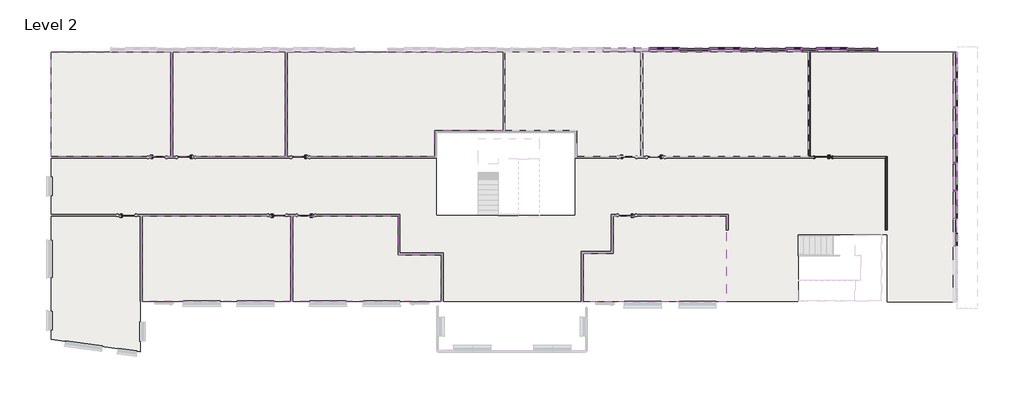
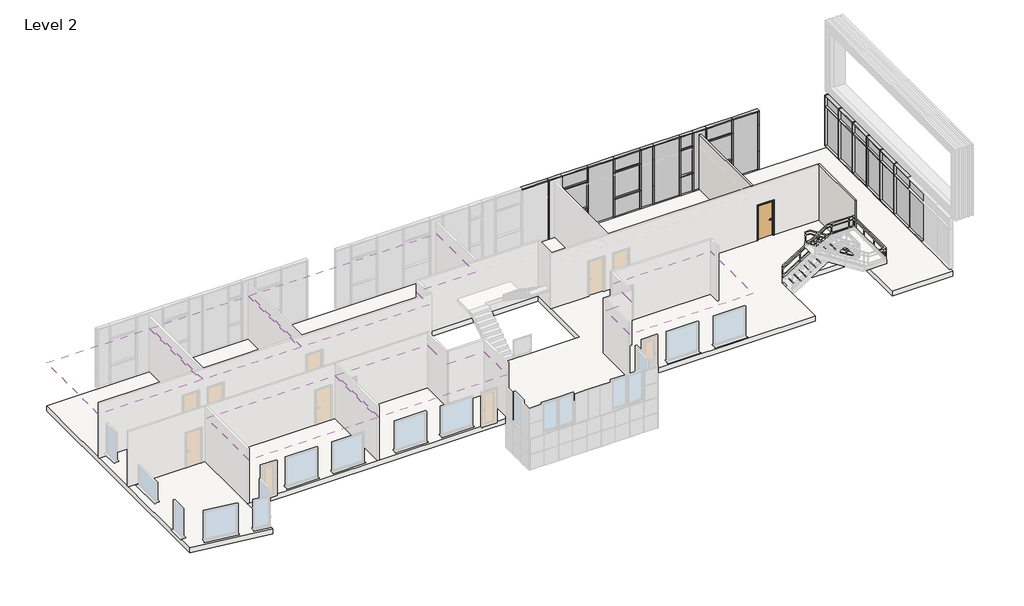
# One storey, part 4 of 7: 80 members, 31 plates, 6 coverings, 2 walls, 1 door, 1 slab.
"""IFC4 building model written with IfcOpenShell, lengths in millimetres."""

from ifc_helpers import new_model, si_unit, frame, origin, place, context, project, spatial, polyline, outline, extrude, faceted_brep, transform, mapped, element, save
from components import doors_intsgl_1_910x2110mm_ba118736, rectangular_mullion_50x180mm_27940352, rectangular_mullion_50x180mm_f781141c, rectangular_mullion_50x180mm_fd91253e, rectangular_mullion_50x180mm_cfc9efda, rectangular_mullion_50x180mm_c30fec06, rectangular_mullion_50x180mm_55b63a96, rectangular_mullion_50x180mm_95299f7d, rectangular_mullion_50x180mm_7153291d, rectangular_mullion_50x180mm_cd79a6a2, rectangular_mullion_50x180mm_b21090a6, rectangular_mullion_50x180mm_bfae1b57, rectangular_mullion_50x180mm_1c28dd9e, rectangular_mullion_50x180mm_827d9562, rectangular_mullion_50x180mm_f9fd6882, rectangular_mullion_50x180mm_28a9348e, rectangular_mullion_50x180mm_57499758, rectangular_mullion_50x180mm_dd4c0430, rectangular_mullion_50x180mm_f827d780, rectangular_mullion_50x180mm_34097c7e, rectangular_mullion_50x180mm_18b0a1cf, rectangular_mullion_50x180mm_3165a896, system_panel_black_panel_b553a8d2, system_panel_dark_grey_panel_97f951a3, system_panel_dark_grey_panel_4b19a003, system_panel_glazed_dd63f223, system_panel_glazed_4915e1a0, system_panel_glazed_a348b684, system_panel_glazed_a3270abd, system_panel_glazed_39b2f593, system_panel_glazed_c582eb4d, system_panel_glazed_b5799559, system_panel_glazed_824c4d82, system_panel_glazed_a66d18e1, system_panel_glazed_1be526e0, system_panel_white_panel_6a64f577, system_panel_white_panel_a9ca731a, system_panel_white_panel_dc489aa2, system_panel_white_panel_659cbcf8

model = new_model("IFC4")

# Units and contexts
model_context = context("Model", 3, world=origin())
ifc_project = project(units=[si_unit("LENGTHUNIT", "METRE", prefix="MILLI")], contexts=[model_context])

# Site, building, storey
site = spatial("IfcSite", under=ifc_project)
building = spatial("IfcBuilding", under=site)
storey = spatial("IfcBuildingStorey", under=building, Name="Level 2", Elevation=7450.0)

# Coverings
placement = place(None, origin())
element("IfcCovering", 1, ObjectType="600x600mm_Grid", at=placement, inside=storey, context=model_context, shape_type="SweptSolid", body=[
    extrude(outline(polyline([(-1429.2223222, 3884.8025486), (-1429.2223222, 9007.4946591), (4433.2942367, 9007.4946591), (4433.2942367, 3884.8025486), (-1429.2223222, 3884.8025486)])), frame((0.0, 0.0, 10050.0), z_axis=(0.0, 0.0, 1.0), x_axis=(1.0, 0.0, 0.0)), (0.0, 0.0, 1.0), 52.0),
])
element("IfcCovering", 2, ObjectType="600x600mm_Grid", at=placement, inside=storey, context=model_context, shape_type="SweptSolid", body=[
    extrude(outline(polyline([(4528.2942367, 9007.4946591), (10058.2942367, 9007.4946591), (10058.2942367, 3884.8025486), (4528.2942367, 3884.8025486), (4528.2942367, 9007.4946591)])), frame((0.0, 0.0, 10050.0), z_axis=(0.0, 0.0, 1.0), x_axis=(1.0, 0.0, 0.0)), (0.0, 0.0, 1.0), 52.0),
])
element("IfcCovering", 3, ObjectType="600x600mm_Grid", at=placement, inside=storey, context=model_context, shape_type="SweptSolid", body=[
    extrude(outline(polyline([(10153.2942367, 9007.4946591), (20770.7942367, 9007.4946591), (20770.7942367, 5143.5025486), (17410.7942367, 5143.5025486), (17410.7942367, 3884.8025486), (10153.2942367, 3884.8025486), (10153.2942367, 9007.4946591)])), frame((0.0, 0.0, 10050.0), z_axis=(0.0, 0.0, 1.0), x_axis=(1.0, 0.0, 0.0)), (0.0, 0.0, 1.0), 52.0),
])
element("IfcCovering", 4, ObjectType="600x600mm_Grid", at=placement, inside=storey, context=model_context, shape_type="SweptSolid", body=[
    extrude(outline(polyline([(31736.4942371, 149.3025492), (31736.4942371, -3285.0053409), (24710.7942367, -3285.0053409), (24710.7942367, -895.6472731), (26193.2942367, -895.6472731), (26193.2942367, 939.9946591), (31736.4942371, 939.9946591), (31736.4942371, 149.3025492)])), frame((0.0, 0.0, 10050.0), z_axis=(0.0, 0.0, 1.0), x_axis=(1.0, 0.0, 0.0)), (0.0, 0.0, 1.0), 52.0),
])
element("IfcCovering", 5, ObjectType="600x600mm_Grid", at=placement, inside=storey, context=model_context, shape_type="SweptSolid", body=[
    extrude(outline(polyline([(17735.7942367, -3259.5053409), (10430.7942367, -3259.5053409), (10430.7942367, 939.9946591), (15610.7942367, 939.9946591), (15610.7942367, -955.0053409), (17735.7942367, -955.0053409), (17735.7942367, -3259.5053409)])), frame((0.0, 0.0, 10050.0), z_axis=(0.0, 0.0, 1.0), x_axis=(1.0, 0.0, 0.0)), (0.0, 0.0, 1.0), 52.0),
])
element("IfcCovering", 6, ObjectType="600x600mm_Grid", at=placement, inside=storey, context=model_context, shape_type="SweptSolid", body=[
    extrude(outline(polyline([(10335.7942367, 939.9946591), (10335.7942367, -3259.5053409), (3030.7942367, -3259.5053409), (3030.7942367, 939.9946591), (10335.7942367, 939.9946591)])), frame((0.0, 0.0, 10050.0), z_axis=(0.0, 0.0, 1.0), x_axis=(1.0, 0.0, 0.0)), (0.0, 0.0, 1.0), 52.0),
])

# Door
doors_intsgl_1_910x2110mm_shape = doors_intsgl_1_910x2110mm_ba118736(model_context)
element("IfcDoor", 7, ObjectType="Doors_IntSgl_1 : 910x2110mm", at=placement, inside=storey, context=model_context, shape_type="MappedRepresentation", body=[
    mapped(doors_intsgl_1_910x2110mm_shape, transform((36520.7942367, 3837.3025486, 7450.0), x_axis=(-1.0, 0.0, 0.0), y_axis=(0.0, -1.0, 0.0), z_axis=(0.0, 0.0, 1.0))),
])

# Members
rectangular_mullion_50x180mm_shape = rectangular_mullion_50x180mm_27940352(model_context)
element("IfcMember", 8, ObjectType="Rectangular Mullion : 50x180mm", at=placement, inside=storey, context=model_context, shape_type="MappedRepresentation", body=[
    mapped(rectangular_mullion_50x180mm_shape, transform((37693.2942367, 9132.4946591, 7450.0), x_axis=(1.0, 0.0, 0.0), y_axis=(0.0, -1.0, 0.0), z_axis=(0.0, 0.0, -1.0))),
])
element("IfcMember", 9, ObjectType="Rectangular Mullion : 50x180mm", at=placement, inside=storey, context=model_context, shape_type="MappedRepresentation", body=[
    mapped(rectangular_mullion_50x180mm_shape, transform((36193.2942367, 9132.4946591, 7450.0), x_axis=(1.0, 0.0, 0.0), y_axis=(0.0, -1.0, 0.0), z_axis=(0.0, 0.0, -1.0))),
])
element("IfcMember", 10, ObjectType="Rectangular Mullion : 50x180mm", at=placement, inside=storey, context=model_context, shape_type="MappedRepresentation", body=[
    mapped(rectangular_mullion_50x180mm_shape, transform((35443.2942367, 9132.4946591, 7450.0), x_axis=(1.0, 0.0, 0.0), y_axis=(0.0, -1.0, 0.0), z_axis=(0.0, 0.0, -1.0))),
])
element("IfcMember", 11, ObjectType="Rectangular Mullion : 50x180mm", at=placement, inside=storey, context=model_context, shape_type="MappedRepresentation", body=[
    mapped(rectangular_mullion_50x180mm_shape, transform((34693.2942367, 9132.4946591, 7450.0), x_axis=(1.0, 0.0, 0.0), y_axis=(0.0, -1.0, 0.0), z_axis=(0.0, 0.0, -1.0))),
])
element("IfcMember", 12, ObjectType="Rectangular Mullion : 50x180mm", at=placement, inside=storey, context=model_context, shape_type="MappedRepresentation", body=[
    mapped(rectangular_mullion_50x180mm_shape, transform((32443.2942367, 9132.4946591, 7450.0), x_axis=(1.0, 0.0, 0.0), y_axis=(0.0, -1.0, 0.0), z_axis=(0.0, 0.0, -1.0))),
])
element("IfcMember", 13, ObjectType="Rectangular Mullion : 50x180mm", at=placement, inside=storey, context=model_context, shape_type="MappedRepresentation", body=[
    mapped(rectangular_mullion_50x180mm_shape, transform((30943.2942367, 9132.4946591, 7450.0), x_axis=(1.0, 0.0, 0.0), y_axis=(0.0, -1.0, 0.0), z_axis=(0.0, 0.0, -1.0))),
])
element("IfcMember", 14, ObjectType="Rectangular Mullion : 50x180mm", at=placement, inside=storey, context=model_context, shape_type="MappedRepresentation", body=[
    mapped(rectangular_mullion_50x180mm_shape, transform((29443.2942367, 9132.4946591, 7450.0), x_axis=(1.0, 0.0, 0.0), y_axis=(0.0, -1.0, 0.0), z_axis=(0.0, 0.0, -1.0))),
])
element("IfcMember", 15, ObjectType="Rectangular Mullion : 50x180mm", at=placement, inside=storey, context=model_context, shape_type="MappedRepresentation", body=[
    mapped(rectangular_mullion_50x180mm_shape, transform((33193.2942367, 9132.4946591, 7450.0), x_axis=(1.0, 0.0, 0.0), y_axis=(0.0, -1.0, 0.0), z_axis=(0.0, 0.0, -1.0))),
])
rectangular_mullion_50x180mm_2_shape = rectangular_mullion_50x180mm_f781141c(model_context)
element("IfcMember", 16, ObjectType="Rectangular Mullion : 50x180mm", at=placement, inside=storey, context=model_context, shape_type="MappedRepresentation", body=[
    mapped(rectangular_mullion_50x180mm_2_shape, transform((29443.2942367, 9132.4946591, 8550.0), x_axis=(1.0, 0.0, 0.0), y_axis=(0.0, -1.0, 0.0), z_axis=(0.0, 0.0, -1.0))),
])
element("IfcMember", 17, ObjectType="Rectangular Mullion : 50x180mm", at=placement, inside=storey, context=model_context, shape_type="MappedRepresentation", body=[
    mapped(rectangular_mullion_50x180mm_2_shape, transform((30943.2942367, 9132.4946591, 8550.0), x_axis=(1.0, 0.0, 0.0), y_axis=(0.0, -1.0, 0.0), z_axis=(0.0, 0.0, -1.0))),
])
element("IfcMember", 18, ObjectType="Rectangular Mullion : 50x180mm", at=placement, inside=storey, context=model_context, shape_type="MappedRepresentation", body=[
    mapped(rectangular_mullion_50x180mm_2_shape, transform((32443.2942367, 9132.4946591, 8550.0), x_axis=(1.0, 0.0, 0.0), y_axis=(0.0, -1.0, 0.0), z_axis=(0.0, 0.0, -1.0))),
])
element("IfcMember", 19, ObjectType="Rectangular Mullion : 50x180mm", at=placement, inside=storey, context=model_context, shape_type="MappedRepresentation", body=[
    mapped(rectangular_mullion_50x180mm_2_shape, transform((34693.2942367, 9132.4946591, 8550.0), x_axis=(1.0, 0.0, 0.0), y_axis=(0.0, -1.0, 0.0), z_axis=(0.0, 0.0, -1.0))),
])
element("IfcMember", 20, ObjectType="Rectangular Mullion : 50x180mm", at=placement, inside=storey, context=model_context, shape_type="MappedRepresentation", body=[
    mapped(rectangular_mullion_50x180mm_2_shape, transform((35443.2942367, 9132.4946591, 8550.0), x_axis=(1.0, 0.0, 0.0), y_axis=(0.0, -1.0, 0.0), z_axis=(0.0, 0.0, -1.0))),
])
element("IfcMember", 21, ObjectType="Rectangular Mullion : 50x180mm", at=placement, inside=storey, context=model_context, shape_type="MappedRepresentation", body=[
    mapped(rectangular_mullion_50x180mm_2_shape, transform((36193.2942367, 9132.4946591, 8550.0), x_axis=(1.0, 0.0, 0.0), y_axis=(0.0, -1.0, 0.0), z_axis=(0.0, 0.0, -1.0))),
])
element("IfcMember", 22, ObjectType="Rectangular Mullion : 50x180mm", at=placement, inside=storey, context=model_context, shape_type="MappedRepresentation", body=[
    mapped(rectangular_mullion_50x180mm_2_shape, transform((37693.2942367, 9132.4946591, 8550.0), x_axis=(1.0, 0.0, 0.0), y_axis=(0.0, -1.0, 0.0), z_axis=(0.0, 0.0, -1.0))),
])
element("IfcMember", 23, ObjectType="Rectangular Mullion : 50x180mm", at=placement, inside=storey, context=model_context, shape_type="MappedRepresentation", body=[
    mapped(rectangular_mullion_50x180mm_2_shape, transform((33193.2942367, 9132.4946591, 8550.0), x_axis=(1.0, 0.0, 0.0), y_axis=(0.0, -1.0, 0.0), z_axis=(0.0, 0.0, -1.0))),
])
rectangular_mullion_50x180mm_3_shape = rectangular_mullion_50x180mm_fd91253e(model_context)
element("IfcMember", 24, ObjectType="Rectangular Mullion : 50x180mm", at=placement, inside=storey, context=model_context, shape_type="MappedRepresentation", body=[
    mapped(rectangular_mullion_50x180mm_3_shape, transform((37668.2942367, 9132.4946591, 8550.0), x_axis=(0.0, 0.0, 1.0), y_axis=(0.0, -1.0, 0.0), z_axis=(1.0, 0.0, 0.0))),
])
element("IfcMember", 25, ObjectType="Rectangular Mullion : 50x180mm", at=placement, inside=storey, context=model_context, shape_type="MappedRepresentation", body=[
    mapped(rectangular_mullion_50x180mm_3_shape, transform((37668.2942367, 9132.4946591, 10150.0), x_axis=(0.0, 0.0, 1.0), y_axis=(0.0, -1.0, 0.0), z_axis=(1.0, 0.0, 0.0))),
])
element("IfcMember", 26, ObjectType="Rectangular Mullion : 50x180mm", at=placement, inside=storey, context=model_context, shape_type="MappedRepresentation", body=[
    mapped(rectangular_mullion_50x180mm_3_shape, transform((29418.2942367, 9132.4946591, 8550.0), x_axis=(0.0, 0.0, 1.0), y_axis=(0.0, -1.0, 0.0), z_axis=(1.0, 0.0, 0.0))),
])
element("IfcMember", 27, ObjectType="Rectangular Mullion : 50x180mm", at=placement, inside=storey, context=model_context, shape_type="MappedRepresentation", body=[
    mapped(rectangular_mullion_50x180mm_3_shape, transform((32418.2942367, 9132.4946591, 8550.0), x_axis=(0.0, 0.0, 1.0), y_axis=(0.0, -1.0, 0.0), z_axis=(1.0, 0.0, 0.0))),
])
element("IfcMember", 28, ObjectType="Rectangular Mullion : 50x180mm", at=placement, inside=storey, context=model_context, shape_type="MappedRepresentation", body=[
    mapped(rectangular_mullion_50x180mm_3_shape, transform((29418.2942367, 9132.4946591, 10150.0), x_axis=(0.0, 0.0, 1.0), y_axis=(0.0, -1.0, 0.0), z_axis=(1.0, 0.0, 0.0))),
])
element("IfcMember", 29, ObjectType="Rectangular Mullion : 50x180mm", at=placement, inside=storey, context=model_context, shape_type="MappedRepresentation", body=[
    mapped(rectangular_mullion_50x180mm_3_shape, transform((32418.2942367, 9132.4946591, 10150.0), x_axis=(0.0, 0.0, 1.0), y_axis=(0.0, -1.0, 0.0), z_axis=(1.0, 0.0, 0.0))),
])
rectangular_mullion_50x180mm_4_shape = rectangular_mullion_50x180mm_cfc9efda(model_context)
element("IfcMember", 30, ObjectType="Rectangular Mullion : 50x180mm", at=placement, inside=storey, context=model_context, shape_type="MappedRepresentation", body=[
    mapped(rectangular_mullion_50x180mm_4_shape, transform((35418.2942367, 9132.4946591, 10150.0), x_axis=(0.0, 0.0, 1.0), y_axis=(0.0, -1.0, 0.0), z_axis=(1.0, 0.0, 0.0))),
])
element("IfcMember", 31, ObjectType="Rectangular Mullion : 50x180mm", at=placement, inside=storey, context=model_context, shape_type="MappedRepresentation", body=[
    mapped(rectangular_mullion_50x180mm_4_shape, transform((35418.2942367, 9132.4946591, 8550.0), x_axis=(0.0, 0.0, 1.0), y_axis=(0.0, -1.0, 0.0), z_axis=(1.0, 0.0, 0.0))),
])
rectangular_mullion_50x180mm_5_shape = rectangular_mullion_50x180mm_c30fec06(model_context)
element("IfcMember", 32, ObjectType="Rectangular Mullion : 50x180mm", at=placement, inside=storey, context=model_context, shape_type="MappedRepresentation", body=[
    mapped(rectangular_mullion_50x180mm_5_shape, transform((29443.2942367, 9132.4946591, 11000.0), x_axis=(0.0, 0.0, 1.0), y_axis=(0.0, -1.0, 0.0), z_axis=(1.0, 0.0, 0.0))),
])
element("IfcMember", 33, ObjectType="Rectangular Mullion : 50x180mm", at=placement, inside=storey, context=model_context, shape_type="MappedRepresentation", body=[
    mapped(rectangular_mullion_50x180mm_5_shape, transform((30943.2942367, 9132.4946591, 11000.0), x_axis=(0.0, 0.0, 1.0), y_axis=(0.0, -1.0, 0.0), z_axis=(1.0, 0.0, 0.0))),
])
element("IfcMember", 34, ObjectType="Rectangular Mullion : 50x180mm", at=placement, inside=storey, context=model_context, shape_type="MappedRepresentation", body=[
    mapped(rectangular_mullion_50x180mm_5_shape, transform((32443.2942367, 9132.4946591, 11000.0), x_axis=(0.0, 0.0, 1.0), y_axis=(0.0, -1.0, 0.0), z_axis=(1.0, 0.0, 0.0))),
])
element("IfcMember", 35, ObjectType="Rectangular Mullion : 50x180mm", at=placement, inside=storey, context=model_context, shape_type="MappedRepresentation", body=[
    mapped(rectangular_mullion_50x180mm_5_shape, transform((34693.2942367, 9132.4946591, 11000.0), x_axis=(0.0, 0.0, 1.0), y_axis=(0.0, -1.0, 0.0), z_axis=(1.0, 0.0, 0.0))),
])
element("IfcMember", 36, ObjectType="Rectangular Mullion : 50x180mm", at=placement, inside=storey, context=model_context, shape_type="MappedRepresentation", body=[
    mapped(rectangular_mullion_50x180mm_5_shape, transform((37693.2942367, 9132.4946591, 11000.0), x_axis=(0.0, 0.0, 1.0), y_axis=(0.0, -1.0, 0.0), z_axis=(1.0, 0.0, 0.0))),
])
rectangular_mullion_50x180mm_6_shape = rectangular_mullion_50x180mm_55b63a96(model_context)
element("IfcMember", 37, ObjectType="Rectangular Mullion : 50x180mm", at=placement, inside=storey, context=model_context, shape_type="MappedRepresentation", body=[
    mapped(rectangular_mullion_50x180mm_6_shape, transform((27943.2942367, 9132.4946591, 11000.0), x_axis=(0.0, 0.0, 1.0), y_axis=(0.0, -1.0, 0.0), z_axis=(1.0, 0.0, 0.0))),
])
element("IfcMember", 38, ObjectType="Rectangular Mullion : 50x180mm", at=placement, inside=storey, context=model_context, shape_type="MappedRepresentation", body=[
    mapped(rectangular_mullion_50x180mm_5_shape, transform((27193.2942367, 9132.4946591, 11000.0), x_axis=(0.0, 0.0, 1.0), y_axis=(0.0, -1.0, 0.0), z_axis=(1.0, 0.0, 0.0))),
])
element("IfcMember", 39, ObjectType="Rectangular Mullion : 50x180mm", at=placement, inside=storey, context=model_context, shape_type="MappedRepresentation", body=[
    mapped(rectangular_mullion_50x180mm_6_shape, transform((33193.2942367, 9132.4946591, 11000.0), x_axis=(0.0, 0.0, 1.0), y_axis=(0.0, -1.0, 0.0), z_axis=(1.0, 0.0, 0.0))),
])
element("IfcMember", 40, ObjectType="Rectangular Mullion : 50x180mm", at=placement, inside=storey, context=model_context, shape_type="MappedRepresentation", body=[
    mapped(rectangular_mullion_50x180mm_6_shape, transform((35443.2942367, 9132.4946591, 11000.0), x_axis=(0.0, 0.0, 1.0), y_axis=(0.0, -1.0, 0.0), z_axis=(1.0, 0.0, 0.0))),
])
element("IfcMember", 41, ObjectType="Rectangular Mullion : 50x180mm", at=placement, inside=storey, context=model_context, shape_type="MappedRepresentation", body=[
    mapped(rectangular_mullion_50x180mm_6_shape, transform((36193.2942367, 9132.4946591, 11000.0), x_axis=(0.0, 0.0, 1.0), y_axis=(0.0, -1.0, 0.0), z_axis=(1.0, 0.0, 0.0))),
])
element("IfcMember", 42, ObjectType="Rectangular Mullion : 50x180mm", at=placement, inside=storey, context=model_context, shape_type="MappedRepresentation", body=[
    mapped(rectangular_mullion_50x180mm_5_shape, transform((39193.2942367, 9132.4946591, 11000.0), x_axis=(0.0, 0.0, 1.0), y_axis=(0.0, -1.0, 0.0), z_axis=(1.0, 0.0, 0.0))),
])
rectangular_mullion_50x180mm_7_shape = rectangular_mullion_50x180mm_95299f7d(model_context)
element("IfcMember", 43, ObjectType="Rectangular Mullion : 50x180mm", at=placement, inside=storey, context=model_context, shape_type="MappedRepresentation", body=[
    mapped(rectangular_mullion_50x180mm_7_shape, transform((39193.2942367, 9132.4946591, 8550.0), x_axis=(1.0, 0.0, 0.0), y_axis=(0.0, -1.0, 0.0), z_axis=(0.0, 0.0, -1.0))),
])
rectangular_mullion_50x180mm_8_shape = rectangular_mullion_50x180mm_7153291d(model_context)
element("IfcMember", 44, ObjectType="Rectangular Mullion : 50x180mm", at=placement, inside=storey, context=model_context, shape_type="MappedRepresentation", body=[
    mapped(rectangular_mullion_50x180mm_8_shape, transform((39193.2942367, 9132.4946591, 7450.0), x_axis=(1.0, 0.0, 0.0), y_axis=(0.0, -1.0, 0.0), z_axis=(0.0, 0.0, -1.0))),
])
element("IfcMember", 45, ObjectType="Rectangular Mullion : 50x180mm", at=placement, inside=storey, context=model_context, shape_type="MappedRepresentation", body=[
    mapped(rectangular_mullion_50x180mm_8_shape, transform((27193.2942367, 9132.4946591, 8550.0), x_axis=(-1.0, 0.0, 0.0), y_axis=(0.0, -1.0, 0.0), z_axis=(0.0, 0.0, 1.0))),
])
element("IfcMember", 46, ObjectType="Rectangular Mullion : 50x180mm", at=placement, inside=storey, context=model_context, shape_type="MappedRepresentation", body=[
    mapped(rectangular_mullion_50x180mm_7_shape, transform((27193.2942367, 9132.4946591, 10150.0), x_axis=(-1.0, 0.0, 0.0), y_axis=(0.0, -1.0, 0.0), z_axis=(0.0, 0.0, 1.0))),
])
rectangular_mullion_50x180mm_9_shape = rectangular_mullion_50x180mm_cd79a6a2(model_context)
element("IfcMember", 47, ObjectType="Rectangular Mullion : 50x180mm", at=placement, inside=storey, context=model_context, shape_type="MappedRepresentation", body=[
    mapped(rectangular_mullion_50x180mm_9_shape, transform((43003.2942367, 7641.6613256, 7600.0), x_axis=(0.0, -1.0, 0.0), y_axis=(-1.0, 0.0, 0.0), z_axis=(0.0, 0.0, -1.0))),
])
element("IfcMember", 48, ObjectType="Rectangular Mullion : 50x180mm", at=placement, inside=storey, context=model_context, shape_type="MappedRepresentation", body=[
    mapped(rectangular_mullion_50x180mm_9_shape, transform((43003.2942367, 6275.8279923, 7600.0), x_axis=(0.0, -1.0, 0.0), y_axis=(-1.0, 0.0, 0.0), z_axis=(0.0, 0.0, -1.0))),
])
element("IfcMember", 49, ObjectType="Rectangular Mullion : 50x180mm", at=placement, inside=storey, context=model_context, shape_type="MappedRepresentation", body=[
    mapped(rectangular_mullion_50x180mm_9_shape, transform((43003.2942367, 4909.994659, 7600.0), x_axis=(0.0, -1.0, 0.0), y_axis=(-1.0, 0.0, 0.0), z_axis=(0.0, 0.0, -1.0))),
])
element("IfcMember", 50, ObjectType="Rectangular Mullion : 50x180mm", at=placement, inside=storey, context=model_context, shape_type="MappedRepresentation", body=[
    mapped(rectangular_mullion_50x180mm_9_shape, transform((43003.2942367, 3544.1613258, 7600.0), x_axis=(0.0, -1.0, 0.0), y_axis=(-1.0, 0.0, 0.0), z_axis=(0.0, 0.0, -1.0))),
])
element("IfcMember", 51, ObjectType="Rectangular Mullion : 50x180mm", at=placement, inside=storey, context=model_context, shape_type="MappedRepresentation", body=[
    mapped(rectangular_mullion_50x180mm_9_shape, transform((43003.2942367, 2178.3279925, 7600.0), x_axis=(0.0, -1.0, 0.0), y_axis=(-1.0, 0.0, 0.0), z_axis=(0.0, 0.0, -1.0))),
])
rectangular_mullion_50x180mm_10_shape = rectangular_mullion_50x180mm_b21090a6(model_context)
element("IfcMember", 52, ObjectType="Rectangular Mullion : 50x180mm", at=placement, inside=storey, context=model_context, shape_type="MappedRepresentation", body=[
    mapped(rectangular_mullion_50x180mm_10_shape, transform((43003.2942367, 9007.4946591, 10000.0), x_axis=(0.0, 1.0, 0.0), y_axis=(-1.0, 0.0, 0.0), z_axis=(0.0, 0.0, 1.0))),
])
rectangular_mullion_50x180mm_11_shape = rectangular_mullion_50x180mm_bfae1b57(model_context)
element("IfcMember", 53, ObjectType="Rectangular Mullion : 50x180mm", at=placement, inside=storey, context=model_context, shape_type="MappedRepresentation", body=[
    mapped(rectangular_mullion_50x180mm_11_shape, transform((34693.2942367, 9132.4946591, 10150.0), x_axis=(1.0, 0.0, 0.0), y_axis=(0.0, -1.0, 0.0), z_axis=(0.0, 0.0, -1.0))),
])
element("IfcMember", 54, ObjectType="Rectangular Mullion : 50x180mm", at=placement, inside=storey, context=model_context, shape_type="MappedRepresentation", body=[
    mapped(rectangular_mullion_50x180mm_11_shape, transform((35443.2942367, 9132.4946591, 10150.0), x_axis=(1.0, 0.0, 0.0), y_axis=(0.0, -1.0, 0.0), z_axis=(0.0, 0.0, -1.0))),
])
element("IfcMember", 55, ObjectType="Rectangular Mullion : 50x180mm", at=placement, inside=storey, context=model_context, shape_type="MappedRepresentation", body=[
    mapped(rectangular_mullion_50x180mm_11_shape, transform((36193.2942367, 9132.4946591, 10150.0), x_axis=(1.0, 0.0, 0.0), y_axis=(0.0, -1.0, 0.0), z_axis=(0.0, 0.0, -1.0))),
])
element("IfcMember", 56, ObjectType="Rectangular Mullion : 50x180mm", at=placement, inside=storey, context=model_context, shape_type="MappedRepresentation", body=[
    mapped(rectangular_mullion_50x180mm_11_shape, transform((37693.2942367, 9132.4946591, 10150.0), x_axis=(1.0, 0.0, 0.0), y_axis=(0.0, -1.0, 0.0), z_axis=(0.0, 0.0, -1.0))),
])
element("IfcMember", 57, ObjectType="Rectangular Mullion : 50x180mm", at=placement, inside=storey, context=model_context, shape_type="MappedRepresentation", body=[
    mapped(rectangular_mullion_50x180mm_11_shape, transform((32443.2942367, 9132.4946591, 10150.0), x_axis=(1.0, 0.0, 0.0), y_axis=(0.0, -1.0, 0.0), z_axis=(0.0, 0.0, -1.0))),
])
element("IfcMember", 58, ObjectType="Rectangular Mullion : 50x180mm", at=placement, inside=storey, context=model_context, shape_type="MappedRepresentation", body=[
    mapped(rectangular_mullion_50x180mm_11_shape, transform((30943.2942367, 9132.4946591, 10150.0), x_axis=(1.0, 0.0, 0.0), y_axis=(0.0, -1.0, 0.0), z_axis=(0.0, 0.0, -1.0))),
])
element("IfcMember", 59, ObjectType="Rectangular Mullion : 50x180mm", at=placement, inside=storey, context=model_context, shape_type="MappedRepresentation", body=[
    mapped(rectangular_mullion_50x180mm_11_shape, transform((29443.2942367, 9132.4946591, 10150.0), x_axis=(1.0, 0.0, 0.0), y_axis=(0.0, -1.0, 0.0), z_axis=(0.0, 0.0, -1.0))),
])
element("IfcMember", 60, ObjectType="Rectangular Mullion : 50x180mm", at=placement, inside=storey, context=model_context, shape_type="MappedRepresentation", body=[
    mapped(rectangular_mullion_50x180mm_11_shape, transform((33193.2942367, 9132.4946591, 10150.0), x_axis=(1.0, 0.0, 0.0), y_axis=(0.0, -1.0, 0.0), z_axis=(0.0, 0.0, -1.0))),
])
rectangular_mullion_50x180mm_12_shape = rectangular_mullion_50x180mm_1c28dd9e(model_context)
element("IfcMember", 61, ObjectType="Rectangular Mullion : 50x180mm", at=placement, inside=storey, context=model_context, shape_type="MappedRepresentation", body=[
    mapped(rectangular_mullion_50x180mm_12_shape, transform((39193.2942367, 9132.4946591, 10150.0), x_axis=(1.0, 0.0, 0.0), y_axis=(0.0, -1.0, 0.0), z_axis=(0.0, 0.0, -1.0))),
])
element("IfcMember", 62, ObjectType="Rectangular Mullion : 50x180mm", at=placement, inside=storey, context=model_context, shape_type="MappedRepresentation", body=[
    mapped(rectangular_mullion_50x180mm_12_shape, transform((27193.2942367, 9132.4946591, 10950.0), x_axis=(-1.0, 0.0, 0.0), y_axis=(0.0, -1.0, 0.0), z_axis=(0.0, 0.0, 1.0))),
])
rectangular_mullion_50x180mm_13_shape = rectangular_mullion_50x180mm_827d9562(model_context)
element("IfcMember", 63, ObjectType="Rectangular Mullion : 50x180mm", at=placement, inside=storey, context=model_context, shape_type="MappedRepresentation", body=[
    mapped(rectangular_mullion_50x180mm_13_shape, transform((43003.2942367, 7641.6613256, 10000.0), x_axis=(0.0, -1.0, 0.0), y_axis=(-1.0, 0.0, 0.0), z_axis=(0.0, 0.0, -1.0))),
])
element("IfcMember", 64, ObjectType="Rectangular Mullion : 50x180mm", at=placement, inside=storey, context=model_context, shape_type="MappedRepresentation", body=[
    mapped(rectangular_mullion_50x180mm_13_shape, transform((43003.2942367, 6275.8279923, 10000.0), x_axis=(0.0, -1.0, 0.0), y_axis=(-1.0, 0.0, 0.0), z_axis=(0.0, 0.0, -1.0))),
])
element("IfcMember", 65, ObjectType="Rectangular Mullion : 50x180mm", at=placement, inside=storey, context=model_context, shape_type="MappedRepresentation", body=[
    mapped(rectangular_mullion_50x180mm_13_shape, transform((43003.2942367, 4909.994659, 10000.0), x_axis=(0.0, -1.0, 0.0), y_axis=(-1.0, 0.0, 0.0), z_axis=(0.0, 0.0, -1.0))),
])
element("IfcMember", 66, ObjectType="Rectangular Mullion : 50x180mm", at=placement, inside=storey, context=model_context, shape_type="MappedRepresentation", body=[
    mapped(rectangular_mullion_50x180mm_13_shape, transform((43003.2942367, 3544.1613258, 10000.0), x_axis=(0.0, -1.0, 0.0), y_axis=(-1.0, 0.0, 0.0), z_axis=(0.0, 0.0, -1.0))),
])
element("IfcMember", 67, ObjectType="Rectangular Mullion : 50x180mm", at=placement, inside=storey, context=model_context, shape_type="MappedRepresentation", body=[
    mapped(rectangular_mullion_50x180mm_13_shape, transform((43003.2942367, 2178.3279925, 10000.0), x_axis=(0.0, -1.0, 0.0), y_axis=(-1.0, 0.0, 0.0), z_axis=(0.0, 0.0, -1.0))),
])
rectangular_mullion_50x180mm_14_shape = rectangular_mullion_50x180mm_f9fd6882(model_context)
element("IfcMember", 68, ObjectType="Rectangular Mullion : 50x180mm", at=placement, inside=storey, context=model_context, shape_type="MappedRepresentation", body=[
    mapped(rectangular_mullion_50x180mm_14_shape, transform((43003.2942367, 9007.4946591, 10665.0), x_axis=(0.0, 1.0, 0.0), y_axis=(-1.0, 0.0, 0.0), z_axis=(0.0, 0.0, 1.0))),
])
rectangular_mullion_50x180mm_15_shape = rectangular_mullion_50x180mm_28a9348e(model_context)
element("IfcMember", 69, ObjectType="Rectangular Mullion : 50x180mm", at=placement, inside=storey, context=model_context, shape_type="MappedRepresentation", body=[
    mapped(rectangular_mullion_50x180mm_15_shape, transform((43003.2942367, 7666.6613256, 10665.0), x_axis=(0.0, 0.0, 1.0), y_axis=(-1.0, 0.0, 0.0), z_axis=(0.0, -1.0, 0.0))),
])
rectangular_mullion_50x180mm_16_shape = rectangular_mullion_50x180mm_57499758(model_context)
element("IfcMember", 70, ObjectType="Rectangular Mullion : 50x180mm", at=placement, inside=storey, context=model_context, shape_type="MappedRepresentation", body=[
    mapped(rectangular_mullion_50x180mm_16_shape, transform((43003.2942367, 6300.8279923, 10665.0), x_axis=(0.0, 0.0, 1.0), y_axis=(-1.0, 0.0, 0.0), z_axis=(0.0, -1.0, 0.0))),
])
element("IfcMember", 71, ObjectType="Rectangular Mullion : 50x180mm", at=placement, inside=storey, context=model_context, shape_type="MappedRepresentation", body=[
    mapped(rectangular_mullion_50x180mm_16_shape, transform((43003.2942367, 4934.994659, 10665.0), x_axis=(0.0, 0.0, 1.0), y_axis=(-1.0, 0.0, 0.0), z_axis=(0.0, -1.0, 0.0))),
])
element("IfcMember", 72, ObjectType="Rectangular Mullion : 50x180mm", at=placement, inside=storey, context=model_context, shape_type="MappedRepresentation", body=[
    mapped(rectangular_mullion_50x180mm_16_shape, transform((43003.2942367, 3569.1613258, 10665.0), x_axis=(0.0, 0.0, 1.0), y_axis=(-1.0, 0.0, 0.0), z_axis=(0.0, -1.0, 0.0))),
])
element("IfcMember", 73, ObjectType="Rectangular Mullion : 50x180mm", at=placement, inside=storey, context=model_context, shape_type="MappedRepresentation", body=[
    mapped(rectangular_mullion_50x180mm_16_shape, transform((43003.2942367, 2203.3279925, 10665.0), x_axis=(0.0, 0.0, 1.0), y_axis=(-1.0, 0.0, 0.0), z_axis=(0.0, -1.0, 0.0))),
])
element("IfcMember", 74, ObjectType="Rectangular Mullion : 50x180mm", at=placement, inside=storey, context=model_context, shape_type="MappedRepresentation", body=[
    mapped(rectangular_mullion_50x180mm_15_shape, transform((43003.2942367, 8957.4946591, 7600.0), x_axis=(0.0, 0.0, -1.0), y_axis=(-1.0, 0.0, 0.0), z_axis=(0.0, 1.0, 0.0))),
])
element("IfcMember", 75, ObjectType="Rectangular Mullion : 50x180mm", at=placement, inside=storey, context=model_context, shape_type="MappedRepresentation", body=[
    mapped(rectangular_mullion_50x180mm_16_shape, transform((43003.2942367, 7616.6613256, 7600.0), x_axis=(0.0, 0.0, -1.0), y_axis=(-1.0, 0.0, 0.0), z_axis=(0.0, 1.0, 0.0))),
])
element("IfcMember", 76, ObjectType="Rectangular Mullion : 50x180mm", at=placement, inside=storey, context=model_context, shape_type="MappedRepresentation", body=[
    mapped(rectangular_mullion_50x180mm_16_shape, transform((43003.2942367, 6250.8279923, 7600.0), x_axis=(0.0, 0.0, -1.0), y_axis=(-1.0, 0.0, 0.0), z_axis=(0.0, 1.0, 0.0))),
])
element("IfcMember", 77, ObjectType="Rectangular Mullion : 50x180mm", at=placement, inside=storey, context=model_context, shape_type="MappedRepresentation", body=[
    mapped(rectangular_mullion_50x180mm_16_shape, transform((43003.2942367, 4884.994659, 7600.0), x_axis=(0.0, 0.0, -1.0), y_axis=(-1.0, 0.0, 0.0), z_axis=(0.0, 1.0, 0.0))),
])
element("IfcMember", 78, ObjectType="Rectangular Mullion : 50x180mm", at=placement, inside=storey, context=model_context, shape_type="MappedRepresentation", body=[
    mapped(rectangular_mullion_50x180mm_16_shape, transform((43003.2942367, 3519.1613258, 7600.0), x_axis=(0.0, 0.0, -1.0), y_axis=(-1.0, 0.0, 0.0), z_axis=(0.0, 1.0, 0.0))),
])
rectangular_mullion_50x180mm_17_shape = rectangular_mullion_50x180mm_dd4c0430(model_context)
element("IfcMember", 79, ObjectType="Rectangular Mullion : 50x180mm", at=placement, inside=storey, context=model_context, shape_type="MappedRepresentation", body=[
    mapped(rectangular_mullion_50x180mm_17_shape, transform((43003.2942367, 2153.3279925, 7600.0), x_axis=(0.0, 0.0, -1.0), y_axis=(-1.0, 0.0, 0.0), z_axis=(0.0, 1.0, 0.0))),
])
rectangular_mullion_50x180mm_18_shape = rectangular_mullion_50x180mm_f827d780(model_context)
element("IfcMember", 80, ObjectType="Rectangular Mullion : 50x180mm", at=placement, inside=storey, context=model_context, shape_type="MappedRepresentation", body=[
    mapped(rectangular_mullion_50x180mm_18_shape, transform((43003.2942367, 7666.6613256, 10000.0), x_axis=(0.0, 0.0, 1.0), y_axis=(-1.0, 0.0, 0.0), z_axis=(0.0, -1.0, 0.0))),
])
rectangular_mullion_50x180mm_19_shape = rectangular_mullion_50x180mm_34097c7e(model_context)
element("IfcMember", 81, ObjectType="Rectangular Mullion : 50x180mm", at=placement, inside=storey, context=model_context, shape_type="MappedRepresentation", body=[
    mapped(rectangular_mullion_50x180mm_19_shape, transform((43003.2942367, 6300.8279923, 10000.0), x_axis=(0.0, 0.0, 1.0), y_axis=(-1.0, 0.0, 0.0), z_axis=(0.0, -1.0, 0.0))),
])
element("IfcMember", 82, ObjectType="Rectangular Mullion : 50x180mm", at=placement, inside=storey, context=model_context, shape_type="MappedRepresentation", body=[
    mapped(rectangular_mullion_50x180mm_19_shape, transform((43003.2942367, 4934.994659, 10000.0), x_axis=(0.0, 0.0, 1.0), y_axis=(-1.0, 0.0, 0.0), z_axis=(0.0, -1.0, 0.0))),
])
element("IfcMember", 83, ObjectType="Rectangular Mullion : 50x180mm", at=placement, inside=storey, context=model_context, shape_type="MappedRepresentation", body=[
    mapped(rectangular_mullion_50x180mm_19_shape, transform((43003.2942367, 3569.1613258, 10000.0), x_axis=(0.0, 0.0, 1.0), y_axis=(-1.0, 0.0, 0.0), z_axis=(0.0, -1.0, 0.0))),
])
element("IfcMember", 84, ObjectType="Rectangular Mullion : 50x180mm", at=placement, inside=storey, context=model_context, shape_type="MappedRepresentation", body=[
    mapped(rectangular_mullion_50x180mm_19_shape, transform((43003.2942367, 2203.3279925, 10000.0), x_axis=(0.0, 0.0, 1.0), y_axis=(-1.0, 0.0, 0.0), z_axis=(0.0, -1.0, 0.0))),
])
rectangular_mullion_50x180mm_20_shape = rectangular_mullion_50x180mm_18b0a1cf(model_context)
element("IfcMember", 85, ObjectType="Rectangular Mullion : 50x180mm", at=placement, inside=storey, context=model_context, shape_type="MappedRepresentation", body=[
    mapped(rectangular_mullion_50x180mm_20_shape, transform((43003.2942367, 812.4946592, 10000.0), x_axis=(0.0, 0.0, 1.0), y_axis=(-1.0, 0.0, 0.0), z_axis=(0.0, -1.0, 0.0))),
])
element("IfcMember", 86, ObjectType="Rectangular Mullion : 50x180mm", at=placement, inside=storey, context=model_context, shape_type="MappedRepresentation", body=[
    mapped(rectangular_mullion_50x180mm_17_shape, transform((43003.2942367, 812.4946592, 10665.0), x_axis=(0.0, 0.0, 1.0), y_axis=(-1.0, 0.0, 0.0), z_axis=(0.0, -1.0, 0.0))),
])
rectangular_mullion_50x180mm_21_shape = rectangular_mullion_50x180mm_3165a896(model_context)
element("IfcMember", 87, ObjectType="Rectangular Mullion : 50x180mm", at=placement, inside=storey, context=model_context, shape_type="MappedRepresentation", body=[
    mapped(rectangular_mullion_50x180mm_21_shape, transform((43003.2942367, 812.4946592, 7600.0), x_axis=(0.0, 0.0, -1.0), y_axis=(-1.0, 0.0, 0.0), z_axis=(0.0, 1.0, 0.0))),
])

# Plates
system_panel_black_panel_shape = system_panel_black_panel_b553a8d2(model_context)
element("IfcPlate", 88, ObjectType="System Panel : Black-Panel", at=placement, inside=storey, context=model_context, shape_type="MappedRepresentation", body=[
    mapped(system_panel_black_panel_shape, transform((35818.2942367, 9132.4946591, 7450.0), x_axis=(1.0, 0.0, 0.0), y_axis=(0.0, 1.0, 0.0), z_axis=(0.0, 0.0, 1.0))),
])
element("IfcPlate", 89, ObjectType="System Panel : Black-Panel", at=placement, inside=storey, context=model_context, shape_type="MappedRepresentation", body=[
    mapped(system_panel_black_panel_shape, transform((32818.2942367, 9132.4946591, 7450.0), x_axis=(1.0, 0.0, 0.0), y_axis=(0.0, 1.0, 0.0), z_axis=(0.0, 0.0, 1.0))),
])
system_panel_dark_grey_panel_shape = system_panel_dark_grey_panel_97f951a3(model_context)
element("IfcPlate", 90, ObjectType="System Panel : Dark Grey-Panel", at=placement, inside=storey, context=model_context, shape_type="MappedRepresentation", body=[
    mapped(system_panel_dark_grey_panel_shape, transform((38430.7942367, 9132.4946591, 7450.0), x_axis=(1.0, 0.0, 0.0), y_axis=(0.0, 1.0, 0.0), z_axis=(0.0, 0.0, 1.0))),
])
system_panel_dark_grey_panel_2_shape = system_panel_dark_grey_panel_4b19a003(model_context)
element("IfcPlate", 91, ObjectType="System Panel : Dark Grey-Panel", at=placement, inside=storey, context=model_context, shape_type="MappedRepresentation", body=[
    mapped(system_panel_dark_grey_panel_2_shape, transform((33943.2942367, 9132.4946591, 7450.0), x_axis=(1.0, 0.0, 0.0), y_axis=(0.0, 1.0, 0.0), z_axis=(0.0, 0.0, 1.0))),
])
element("IfcPlate", 92, ObjectType="System Panel : Dark Grey-Panel", at=placement, inside=storey, context=model_context, shape_type="MappedRepresentation", body=[
    mapped(system_panel_dark_grey_panel_2_shape, transform((30193.2942367, 9132.4946591, 7450.0), x_axis=(1.0, 0.0, 0.0), y_axis=(0.0, 1.0, 0.0), z_axis=(0.0, 0.0, 1.0))),
])
system_panel_glazed_shape = system_panel_glazed_dd63f223(model_context)
element("IfcPlate", 93, ObjectType="System Panel : Glazed", at=placement, inside=storey, context=model_context, shape_type="MappedRepresentation", body=[
    mapped(system_panel_glazed_shape, transform((35068.2942367, 9132.4946591, 8575.0), x_axis=(1.0, 0.0, 0.0), y_axis=(0.0, 1.0, 0.0), z_axis=(0.0, 0.0, 1.0))),
])
system_panel_glazed_2_shape = system_panel_glazed_4915e1a0(model_context)
element("IfcPlate", 94, ObjectType="System Panel : Glazed", at=placement, inside=storey, context=model_context, shape_type="MappedRepresentation", body=[
    mapped(system_panel_glazed_2_shape, transform((36943.2942367, 9132.4946591, 8575.0), x_axis=(1.0, 0.0, 0.0), y_axis=(0.0, 1.0, 0.0), z_axis=(0.0, 0.0, 1.0))),
])
element("IfcPlate", 95, ObjectType="System Panel : Glazed", at=placement, inside=storey, context=model_context, shape_type="MappedRepresentation", body=[
    mapped(system_panel_glazed_2_shape, transform((31693.2942367, 9132.4946591, 8575.0), x_axis=(1.0, 0.0, 0.0), y_axis=(0.0, 1.0, 0.0), z_axis=(0.0, 0.0, 1.0))),
])
element("IfcPlate", 96, ObjectType="System Panel : Glazed", at=placement, inside=storey, context=model_context, shape_type="MappedRepresentation", body=[
    mapped(system_panel_glazed_2_shape, transform((28693.2942367, 9132.4946591, 8575.0), x_axis=(1.0, 0.0, 0.0), y_axis=(0.0, 1.0, 0.0), z_axis=(0.0, 0.0, 1.0))),
])
system_panel_glazed_3_shape = system_panel_glazed_a348b684(model_context)
element("IfcPlate", 97, ObjectType="System Panel : Glazed", at=placement, inside=storey, context=model_context, shape_type="MappedRepresentation", body=[
    mapped(system_panel_glazed_3_shape, transform((43003.2942367, 8312.0779924, 7650.0), x_axis=(0.0, -1.0, 0.0), y_axis=(1.0, 0.0, 0.0), z_axis=(0.0, 0.0, 1.0))),
])
system_panel_glazed_4_shape = system_panel_glazed_a3270abd(model_context)
element("IfcPlate", 98, ObjectType="System Panel : Glazed", at=placement, inside=storey, context=model_context, shape_type="MappedRepresentation", body=[
    mapped(system_panel_glazed_4_shape, transform((43003.2942367, 6958.7446589, 7650.0), x_axis=(0.0, -1.0, 0.0), y_axis=(1.0, 0.0, 0.0), z_axis=(0.0, 0.0, 1.0))),
])
element("IfcPlate", 99, ObjectType="System Panel : Glazed", at=placement, inside=storey, context=model_context, shape_type="MappedRepresentation", body=[
    mapped(system_panel_glazed_4_shape, transform((43003.2942367, 5592.9113257, 7650.0), x_axis=(0.0, -1.0, 0.0), y_axis=(1.0, 0.0, 0.0), z_axis=(0.0, 0.0, 1.0))),
])
element("IfcPlate", 100, ObjectType="System Panel : Glazed", at=placement, inside=storey, context=model_context, shape_type="MappedRepresentation", body=[
    mapped(system_panel_glazed_4_shape, transform((43003.2942367, 4227.0779924, 7650.0), x_axis=(0.0, -1.0, 0.0), y_axis=(1.0, 0.0, 0.0), z_axis=(0.0, 0.0, 1.0))),
])
element("IfcPlate", 101, ObjectType="System Panel : Glazed", at=placement, inside=storey, context=model_context, shape_type="MappedRepresentation", body=[
    mapped(system_panel_glazed_4_shape, transform((43003.2942367, 2861.2446591, 7650.0), x_axis=(0.0, -1.0, 0.0), y_axis=(1.0, 0.0, 0.0), z_axis=(0.0, 0.0, 1.0))),
])
system_panel_glazed_5_shape = system_panel_glazed_39b2f593(model_context)
element("IfcPlate", 102, ObjectType="System Panel : Glazed", at=placement, inside=storey, context=model_context, shape_type="MappedRepresentation", body=[
    mapped(system_panel_glazed_5_shape, transform((43003.2942367, 1482.9113259, 7650.0), x_axis=(0.0, -1.0, 0.0), y_axis=(1.0, 0.0, 0.0), z_axis=(0.0, 0.0, 1.0))),
])
system_panel_glazed_6_shape = system_panel_glazed_c582eb4d(model_context)
element("IfcPlate", 103, ObjectType="System Panel : Glazed", at=placement, inside=storey, context=model_context, shape_type="MappedRepresentation", body=[
    mapped(system_panel_glazed_6_shape, transform((43003.2942367, 8312.0779924, 10025.0), x_axis=(0.0, -1.0, 0.0), y_axis=(1.0, 0.0, 0.0), z_axis=(0.0, 0.0, 1.0))),
])
system_panel_glazed_7_shape = system_panel_glazed_b5799559(model_context)
element("IfcPlate", 104, ObjectType="System Panel : Glazed", at=placement, inside=storey, context=model_context, shape_type="MappedRepresentation", body=[
    mapped(system_panel_glazed_7_shape, transform((43003.2942367, 6958.7446589, 10025.0), x_axis=(0.0, -1.0, 0.0), y_axis=(1.0, 0.0, 0.0), z_axis=(0.0, 0.0, 1.0))),
])
element("IfcPlate", 105, ObjectType="System Panel : Glazed", at=placement, inside=storey, context=model_context, shape_type="MappedRepresentation", body=[
    mapped(system_panel_glazed_7_shape, transform((43003.2942367, 5592.9113257, 10025.0), x_axis=(0.0, -1.0, 0.0), y_axis=(1.0, 0.0, 0.0), z_axis=(0.0, 0.0, 1.0))),
])
element("IfcPlate", 106, ObjectType="System Panel : Glazed", at=placement, inside=storey, context=model_context, shape_type="MappedRepresentation", body=[
    mapped(system_panel_glazed_7_shape, transform((43003.2942367, 4227.0779924, 10025.0), x_axis=(0.0, -1.0, 0.0), y_axis=(1.0, 0.0, 0.0), z_axis=(0.0, 0.0, 1.0))),
])
element("IfcPlate", 107, ObjectType="System Panel : Glazed", at=placement, inside=storey, context=model_context, shape_type="MappedRepresentation", body=[
    mapped(system_panel_glazed_7_shape, transform((43003.2942367, 2861.2446591, 10025.0), x_axis=(0.0, -1.0, 0.0), y_axis=(1.0, 0.0, 0.0), z_axis=(0.0, 0.0, 1.0))),
])
system_panel_glazed_8_shape = system_panel_glazed_824c4d82(model_context)
element("IfcPlate", 108, ObjectType="System Panel : Glazed", at=placement, inside=storey, context=model_context, shape_type="MappedRepresentation", body=[
    mapped(system_panel_glazed_8_shape, transform((43003.2942367, 1482.9113259, 10025.0), x_axis=(0.0, -1.0, 0.0), y_axis=(1.0, 0.0, 0.0), z_axis=(0.0, 0.0, 1.0))),
])
system_panel_glazed_9_shape = system_panel_glazed_a66d18e1(model_context)
element("IfcPlate", 109, ObjectType="System Panel : Glazed", at=placement, inside=storey, context=model_context, shape_type="MappedRepresentation", body=[
    mapped(system_panel_glazed_9_shape, transform((43003.2942367, 129.5779926, 7650.0), x_axis=(0.0, -1.0, 0.0), y_axis=(1.0, 0.0, 0.0), z_axis=(0.0, 0.0, 1.0))),
])
system_panel_glazed_10_shape = system_panel_glazed_1be526e0(model_context)
element("IfcPlate", 110, ObjectType="System Panel : Glazed", at=placement, inside=storey, context=model_context, shape_type="MappedRepresentation", body=[
    mapped(system_panel_glazed_10_shape, transform((43003.2942367, 129.5779926, 10025.0), x_axis=(0.0, -1.0, 0.0), y_axis=(1.0, 0.0, 0.0), z_axis=(0.0, 0.0, 1.0))),
])
system_panel_white_panel_shape = system_panel_white_panel_6a64f577(model_context)
element("IfcPlate", 111, ObjectType="System Panel : White-Panel", at=placement, inside=storey, context=model_context, shape_type="MappedRepresentation", body=[
    mapped(system_panel_white_panel_shape, transform((36943.2942367, 9132.4946591, 7450.0), x_axis=(1.0, 0.0, 0.0), y_axis=(0.0, 1.0, 0.0), z_axis=(0.0, 0.0, 1.0))),
])
element("IfcPlate", 112, ObjectType="System Panel : White-Panel", at=placement, inside=storey, context=model_context, shape_type="MappedRepresentation", body=[
    mapped(system_panel_white_panel_shape, transform((31693.2942367, 9132.4946591, 7450.0), x_axis=(1.0, 0.0, 0.0), y_axis=(0.0, 1.0, 0.0), z_axis=(0.0, 0.0, 1.0))),
])
element("IfcPlate", 113, ObjectType="System Panel : White-Panel", at=placement, inside=storey, context=model_context, shape_type="MappedRepresentation", body=[
    mapped(system_panel_white_panel_shape, transform((28693.2942367, 9132.4946591, 7450.0), x_axis=(1.0, 0.0, 0.0), y_axis=(0.0, 1.0, 0.0), z_axis=(0.0, 0.0, 1.0))),
])
system_panel_white_panel_2_shape = system_panel_white_panel_a9ca731a(model_context)
element("IfcPlate", 114, ObjectType="System Panel : White-Panel", at=placement, inside=storey, context=model_context, shape_type="MappedRepresentation", body=[
    mapped(system_panel_white_panel_2_shape, transform((35068.2942367, 9132.4946591, 7450.0), x_axis=(1.0, 0.0, 0.0), y_axis=(0.0, 1.0, 0.0), z_axis=(0.0, 0.0, 1.0))),
])
system_panel_white_panel_3_shape = system_panel_white_panel_dc489aa2(model_context)
element("IfcPlate", 115, ObjectType="System Panel : White-Panel", at=placement, inside=storey, context=model_context, shape_type="MappedRepresentation", body=[
    mapped(system_panel_white_panel_3_shape, transform((35068.2942367, 9132.4946591, 10175.0), x_axis=(1.0, 0.0, 0.0), y_axis=(0.0, 1.0, 0.0), z_axis=(0.0, 0.0, 1.0))),
])
system_panel_white_panel_4_shape = system_panel_white_panel_659cbcf8(model_context)
element("IfcPlate", 116, ObjectType="System Panel : White-Panel", at=placement, inside=storey, context=model_context, shape_type="MappedRepresentation", body=[
    mapped(system_panel_white_panel_4_shape, transform((36943.2942367, 9132.4946591, 10175.0), x_axis=(1.0, 0.0, 0.0), y_axis=(0.0, 1.0, 0.0), z_axis=(0.0, 0.0, 1.0))),
])
element("IfcPlate", 117, ObjectType="System Panel : White-Panel", at=placement, inside=storey, context=model_context, shape_type="MappedRepresentation", body=[
    mapped(system_panel_white_panel_4_shape, transform((31693.2942367, 9132.4946591, 10175.0), x_axis=(1.0, 0.0, 0.0), y_axis=(0.0, 1.0, 0.0), z_axis=(0.0, 0.0, 1.0))),
])
element("IfcPlate", 118, ObjectType="System Panel : White-Panel", at=placement, inside=storey, context=model_context, shape_type="MappedRepresentation", body=[
    mapped(system_panel_white_panel_4_shape, transform((28693.2942367, 9132.4946591, 10175.0), x_axis=(1.0, 0.0, 0.0), y_axis=(0.0, 1.0, 0.0), z_axis=(0.0, 0.0, 1.0))),
])

# Slab
element("IfcSlab", 119, ObjectType="Flr-Int-300mm", at=placement, inside=storey, context=model_context, shape_type="SweptSolid", body=[
    extrude(outline(polyline([(43093.2942367, 9007.4946591), (43093.2942367, -3285.0053409), (39655.7942367, -3285.0053409), (39655.7942367, 41.8025492), (35285.7942367, 41.8025492), (35285.7942367, -3260.0053409), (2935.2942367, -3260.0053409), (2935.2942367, -5743.2655529), (-1429.2223222, -5129.8727526), (-1429.2223222, 9007.4946591), (43093.2942367, 9007.4946591)]), holes=[polyline([(24298.2942367, 5048.5025486), (17505.7942367, 5048.5025486), (17505.7942367, 999.3527269), (24298.2942367, 999.3527269), (24298.2942367, 5048.5025486)])]), frame((0.0, 0.0, 7150.0), z_axis=(0.0, 0.0, 1.0), x_axis=(1.0, 0.0, 0.0)), (0.0, 0.0, 1.0), 300.0),
])

# Walls
element("IfcWall", 120, ObjectType="Wall-Partn_12P-70MStd-12P", at=placement, inside=storey, context=model_context, shape_type="SweptSolid", body=[
    extrude(outline(polyline([(35865.7942367, 9007.4946591), (35865.7942367, 3884.8025486), (35770.7942367, 3884.8025486), (35770.7942367, 9007.4946591), (35865.7942367, 9007.4946591)])), frame((0.0, 0.0, 7450.0), z_axis=(0.0, 0.0, 1.0), x_axis=(1.0, 0.0, 0.0)), (0.0, 0.0, 1.0), 3315.0),
])
element("IfcWall", 121, ObjectType="Wall-Partn_12P-70MStd-12P", at=placement, inside=storey, context=model_context, shape_type="Brep", body=[
    faceted_brep([(39560.7942367, 3884.8025486, 7450.0), (39560.7942367, 3789.8025486, 7450.0), (39560.7942367, 256.8025492, 7450.0), (39560.7942367, 256.8025492, 10765.0), (39560.7942367, 3789.8025486, 10765.0), (39560.7942367, 3884.8025486, 10765.0), (39655.7942367, 3884.8025486, 7450.0), (39655.7942367, 3884.8025486, 10765.0), (39655.7942367, 256.8025492, 10765.0), (39655.7942367, 256.8025492, 7450.0)], [[[0, 1, 2, 3, 4, 5]], [[6, 7, 8, 9]], [[2, 1, 0, 6, 9]], [[5, 4, 3, 8, 7]], [[3, 2, 9, 8]], [[0, 5, 7, 6]]]),
])

save(model, "model.ifc")
